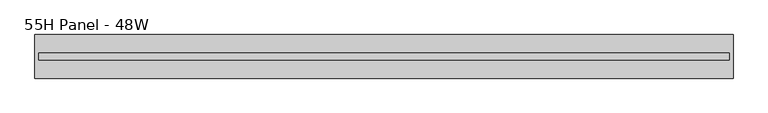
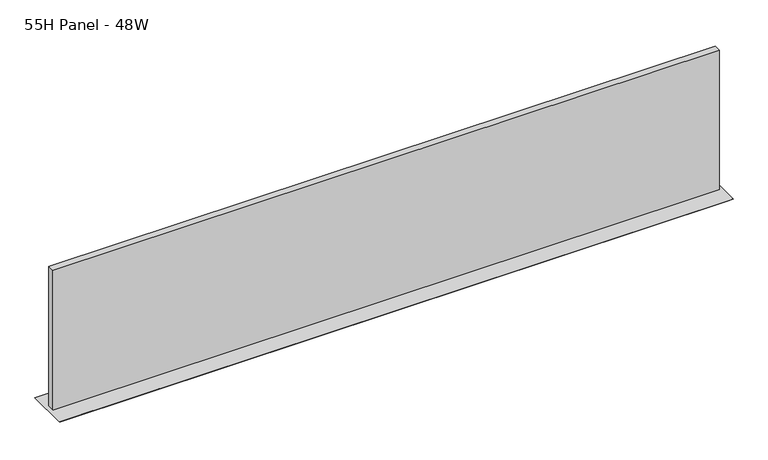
"""IFC4 building model written with IfcOpenShell, lengths in millimetres: furniture geometry, Steelcase - Montage - Tiles - 10H - Frameless Glass Stacker : 55H Panel - 48W."""

from ifc_helpers import new_model, si_unit, frame, origin, place, context, project, spatial, polyline, outline, extrude, faceted_brep, source, transform, mapped, element, save


def furniture_55h_panel_48w_fab729a9(model_context):
    return source(origin(), model_context, "Body", "SolidModel", [
        faceted_brep([(1219.2, -38.1000015, 1398.5875), (0.0, -38.1000015, 1398.5875), (6.35, -31.7500015, 1392.2375), (1212.85, -31.7500015, 1392.2375), (6.35, 31.7500015, 1392.2375), (1212.85, 31.7500015, 1392.2375), (0.0, 38.1000015, 1398.5875), (1219.2, 38.1000015, 1398.5875)], [[[0, 1, 2, 3]], [[3, 2, 4, 5]], [[6, 7, 5, 4]], [[1, 0, 7, 6]], [[2, 1, 6, 4]], [[0, 3, 5, 7]]]),
        extrude(outline(polyline([(1212.4181828, -5.9944001), (6.7818001, -5.9944001), (6.7818001, 5.9944008), (1212.4181828, 5.9944008), (1212.4181828, -5.9944001)])), frame((0.0, 0.0, 1398.5875), z_axis=(0.0, 0.0, 1.0), x_axis=(1.0, 0.0, 0.0)), (0.0, 0.0, 1.0), 267.7160475),
    ])


if __name__ == "__main__":
    model = new_model("IFC4")
    model_context = context("Model", 3, world=origin())
    ifc_project = project(units=[si_unit("LENGTHUNIT", "METRE", prefix="MILLI")], contexts=[model_context])
    site = spatial("IfcSite", under=ifc_project)
    building = spatial("IfcBuilding", under=site)
    placement = place(None, origin())
    furniture_55h_panel_48w_shape = furniture_55h_panel_48w_fab729a9(model_context)
    element("IfcFurniture", 1, ObjectType="Steelcase - Montage - Tiles - 10H - Frameless Glass Stacker : 55H Panel - 48W", at=placement, inside=building, context=model_context, shape_type="MappedRepresentation", body=[
        mapped(furniture_55h_panel_48w_shape, transform((0.0, 0.0, 0.0), x_axis=(1.0, 0.0, 0.0), y_axis=(0.0, 1.0, 0.0), z_axis=(0.0, 0.0, 1.0))),
    ])
    save(model, "model.ifc")
